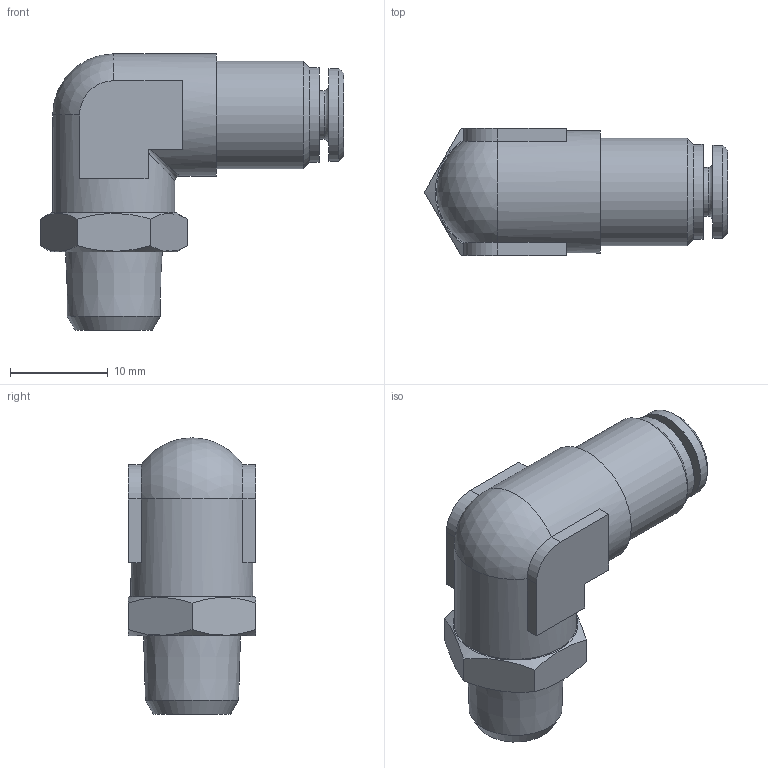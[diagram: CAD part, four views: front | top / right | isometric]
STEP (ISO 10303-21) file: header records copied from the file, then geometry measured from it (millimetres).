
FILE_DESCRIPTION(/* description */ (''),/* implementation_level */ '2;1');
FILE_NAME(/* name */ 'H220418_HDS_022K_4_1-8',/* time_stamp */ '2016-12-09T10:35:40+01:00',/* author */ (''),/* organization */ (''),/* preprocessor_version */ 'ST-DEVELOPER v16.5',/* originating_system */ 'HiCAD 2016 2102.0 Build 402',/* authorisation */ '');
FILE_SCHEMA (('AUTOMOTIVE_DESIGN { 1 0 10303 214 1 1 1 1 }'));
Length unit declared in the file: millimetre
Products named in the file (4): Root; ONLINE_DR4_HDS_26.11.15; RIVOLUZIONE_0; ROTATIONSTEIL_0
Assembly tree (3 placements, depth 2):
  Root
    ONLINE_DR4_HDS_26.11.15
    RIVOLUZIONE_0
    ROTATIONSTEIL_0
Bounding box: 31.01 x 13 x 28.25 mm (x, y, z)
Volume: 3890.5 mm3; surface area: 3734 mm2
Topology: 3 solids, 3 shells, 78 faces, 166 edges, 103 vertices
Faces by surface type: plane 35, cylinder 20, cone 18, torus 3, sphere 1, bspline 1
Full cylindrical faces by diameter (mm): 3 x1, 4 x1, 4.2 x2, 5 x1, 6 x1, 7.3 x1, 8 x1, 8.3 x1, 9 x2, 9.5 x1, 9.7 x1, 10.1 x2, 11 x1, 12.5 x2
Entity records: 3617 total; most frequent: CARTESIAN_POINT 784, DIRECTION 354, PRESENTATION_STYLE_ASSIGNMENT 245, COLOUR_RGB 244, DRAUGHTING_PRE_DEFINED_CURVE_FONT 242, CURVE_STYLE 242, OVER_RIDING_STYLED_ITEM 242, ORIENTED_EDGE 242
